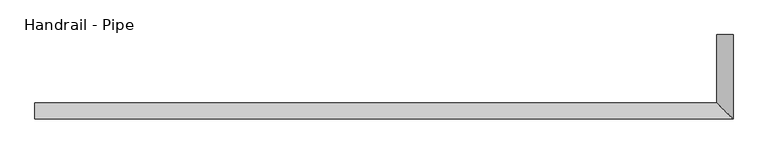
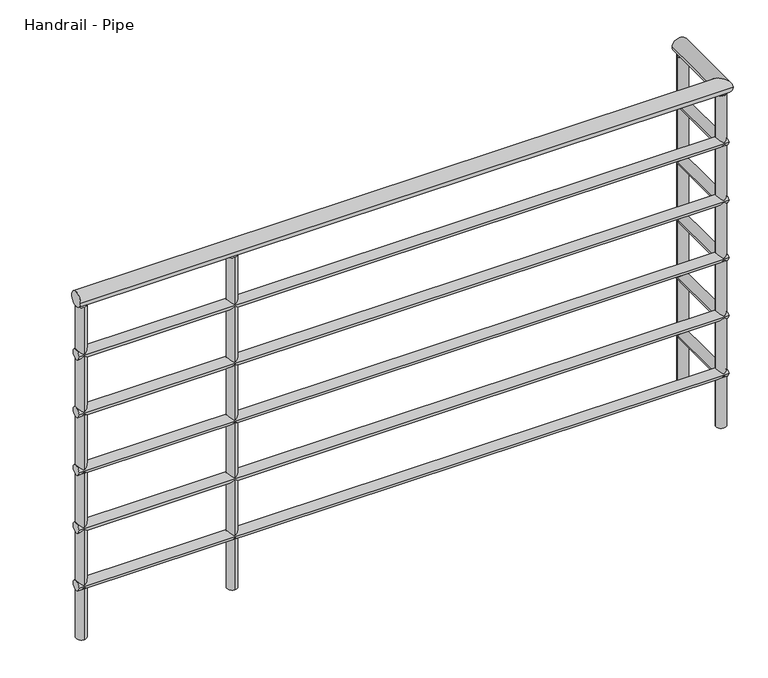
"""IFC4 building model written with IfcOpenShell, lengths in millimetres: railing geometry, Handrail - Pipe."""

from ifc_helpers import new_model, si_unit, point, frame, frame_2d, origin, origin_with_axes, place, context, project, spatial, circle_curve, ellipse_curve, trimmed, segment, composite_curve, outline, extrude, source, transform, mapped, element, save
from ifc_brep_helpers import plane_surface, cylinder_surface, advanced_brep


def handrail_pipe_f52d8f37(model_context):
    return source(origin(), model_context, "Body", "SolidModel", [
        advanced_brep(
        [(11849.3921922, 17749.6862109, 895.35), (11811.2921922, 17749.6862109, 895.35), (11849.3921922, 17552.8362109, 895.35), (11811.2921922, 17590.9362109, 895.35), (10222.462245, 17552.8362109, 895.35), (10222.462245, 17590.9362109, 895.35)],
        [
            (0, 1, circle_curve(frame((11830.3421922, 17749.6862109, 895.35), z_axis=(0.0, 1.0, 0.0), x_axis=(-1.0, 0.0, 0.0)), 19.05)),
            (1, 0, circle_curve(frame((11830.3421922, 17749.6862109, 895.35), z_axis=(0.0, 1.0, 0.0), x_axis=(-1.0, 0.0, 0.0)), 19.05)),
            (0, 2),
            (2, 3, ellipse_curve(frame((11830.3421922, 17571.8862109, 895.35), z_axis=(0.7071067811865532, 0.7071067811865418, 0.0), x_axis=(-0.7071067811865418, 0.7071067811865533, 0.0)), 26.9407684, 19.05)),
            (3, 1),
            (3, 2, ellipse_curve(frame((11830.3421922, 17571.8862109, 895.35), z_axis=(0.7071067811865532, 0.7071067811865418, 0.0), x_axis=(-0.7071067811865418, 0.7071067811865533, 0.0)), 26.9407684, 19.05)),
            (4, 5, circle_curve(frame((10222.462245, 17571.8862109, 895.35), z_axis=(-1.0, 0.0, 0.0), x_axis=(0.0, 1.0, 0.0)), 19.05)),
            (5, 4, circle_curve(frame((10222.462245, 17571.8862109, 895.35), z_axis=(-1.0, 0.0, 0.0), x_axis=(0.0, 1.0, 0.0)), 19.05)),
            (2, 4),
            (5, 3),
        ],
        [
            plane_surface(frame((11830.3421922, 17749.6862109, 914.4), z_axis=(0.0, 1.0, 0.0), x_axis=(0.0, 0.0, -1.0))),
            cylinder_surface(frame((11830.3421922, 17749.6862109, 895.35), z_axis=(0.0, 1.0, 0.0), x_axis=(-1.0, 0.0, 0.0)), 19.05),
            plane_surface(frame((10222.462245, 17571.8862109, 914.4), z_axis=(-1.0, 0.0, 0.0), x_axis=(0.0, -1.0, 0.0))),
            cylinder_surface(frame((11830.3421922, 17571.8862109, 895.35), z_axis=(1.0, 0.0, 0.0), x_axis=(0.0, 1.0, 0.0)), 19.05),
        ],
        [
            (0, [[1, 2]]),
            (1, [[-1, 3, 4, 5]]),
            (1, [[-2, -5, 6, -3]]),
            (2, [[7, 8]]),
            (3, [[-4, 9, -8, 10]]),
            (3, [[-6, -10, -7, -9]]),
        ],
    ),
        advanced_brep(
        [(11843.0421922, 17749.6862109, 749.3), (11817.6421922, 17749.6862109, 749.3), (11843.0421922, 17559.1862109, 749.3), (11817.6421922, 17584.5862109, 749.3), (10222.462245, 17559.1862109, 749.3), (10222.462245, 17584.5862109, 749.3)],
        [
            (0, 1, circle_curve(frame((11830.3421922, 17749.6862109, 749.3), z_axis=(0.0, 1.0, 0.0), x_axis=(-1.0, 0.0, 0.0)), 12.7)),
            (1, 0, circle_curve(frame((11830.3421922, 17749.6862109, 749.3), z_axis=(0.0, 1.0, 0.0), x_axis=(-1.0, 0.0, 0.0)), 12.7)),
            (0, 2),
            (2, 3, ellipse_curve(frame((11830.3421922, 17571.8862109, 749.3), z_axis=(0.7071067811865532, 0.7071067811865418, 0.0), x_axis=(-0.7071067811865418, 0.7071067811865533, 0.0)), 17.9605122, 12.7)),
            (3, 1),
            (3, 2, ellipse_curve(frame((11830.3421922, 17571.8862109, 749.3), z_axis=(0.7071067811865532, 0.7071067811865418, 0.0), x_axis=(-0.7071067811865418, 0.7071067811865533, 0.0)), 17.9605122, 12.7)),
            (4, 5, circle_curve(frame((10222.462245, 17571.8862109, 749.3), z_axis=(-1.0, 0.0, 0.0), x_axis=(0.0, 1.0, 0.0)), 12.7)),
            (5, 4, circle_curve(frame((10222.462245, 17571.8862109, 749.3), z_axis=(-1.0, 0.0, 0.0), x_axis=(0.0, 1.0, 0.0)), 12.7)),
            (2, 4),
            (5, 3),
        ],
        [
            plane_surface(frame((11830.3421922, 17749.6862109, 762.0), z_axis=(0.0, 1.0, 0.0), x_axis=(0.0, 0.0, -1.0))),
            cylinder_surface(frame((11830.3421922, 17749.6862109, 749.3), z_axis=(0.0, 1.0, 0.0), x_axis=(-1.0, 0.0, 0.0)), 12.7),
            plane_surface(frame((10222.462245, 17571.8862109, 762.0), z_axis=(-1.0, 0.0, 0.0), x_axis=(0.0, -1.0, 0.0))),
            cylinder_surface(frame((11830.3421922, 17571.8862109, 749.3), z_axis=(1.0, 0.0, 0.0), x_axis=(0.0, 1.0, 0.0)), 12.7),
        ],
        [
            (0, [[1, 2]]),
            (1, [[-1, 3, 4, 5]]),
            (1, [[-2, -5, 6, -3]]),
            (2, [[7, 8]]),
            (3, [[-4, 9, -8, 10]]),
            (3, [[-6, -10, -7, -9]]),
        ],
    ),
        advanced_brep(
        [(11843.0421922, 17749.6862109, 596.9), (11817.6421922, 17749.6862109, 596.9), (11843.0421922, 17559.1862109, 596.9), (11817.6421922, 17584.5862109, 596.9), (10222.462245, 17559.1862109, 596.9), (10222.462245, 17584.5862109, 596.9)],
        [
            (0, 1, circle_curve(frame((11830.3421922, 17749.6862109, 596.9), z_axis=(0.0, 1.0, 0.0), x_axis=(-1.0, 0.0, 0.0)), 12.7)),
            (1, 0, circle_curve(frame((11830.3421922, 17749.6862109, 596.9), z_axis=(0.0, 1.0, 0.0), x_axis=(-1.0, 0.0, 0.0)), 12.7)),
            (0, 2),
            (2, 3, ellipse_curve(frame((11830.3421922, 17571.8862109, 596.9), z_axis=(0.7071067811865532, 0.7071067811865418, 0.0), x_axis=(-0.7071067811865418, 0.7071067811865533, 0.0)), 17.9605122, 12.7)),
            (3, 1),
            (3, 2, ellipse_curve(frame((11830.3421922, 17571.8862109, 596.9), z_axis=(0.7071067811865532, 0.7071067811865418, 0.0), x_axis=(-0.7071067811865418, 0.7071067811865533, 0.0)), 17.9605122, 12.7)),
            (4, 5, circle_curve(frame((10222.462245, 17571.8862109, 596.9), z_axis=(-1.0, 0.0, 0.0), x_axis=(0.0, 1.0, 0.0)), 12.7)),
            (5, 4, circle_curve(frame((10222.462245, 17571.8862109, 596.9), z_axis=(-1.0, 0.0, 0.0), x_axis=(0.0, 1.0, 0.0)), 12.7)),
            (2, 4),
            (5, 3),
        ],
        [
            plane_surface(frame((11830.3421922, 17749.6862109, 609.6), z_axis=(0.0, 1.0, 0.0), x_axis=(0.0, 0.0, -1.0))),
            cylinder_surface(frame((11830.3421922, 17749.6862109, 596.9), z_axis=(0.0, 1.0, 0.0), x_axis=(-1.0, 0.0, 0.0)), 12.7),
            plane_surface(frame((10222.462245, 17571.8862109, 609.6), z_axis=(-1.0, 0.0, 0.0), x_axis=(0.0, -1.0, 0.0))),
            cylinder_surface(frame((11830.3421922, 17571.8862109, 596.9), z_axis=(1.0, 0.0, 0.0), x_axis=(0.0, 1.0, 0.0)), 12.7),
        ],
        [
            (0, [[1, 2]]),
            (1, [[-1, 3, 4, 5]]),
            (1, [[-2, -5, 6, -3]]),
            (2, [[7, 8]]),
            (3, [[-4, 9, -8, 10]]),
            (3, [[-6, -10, -7, -9]]),
        ],
    ),
        advanced_brep(
        [(11843.0421922, 17749.6862109, 444.5), (11817.6421922, 17749.6862109, 444.5), (11843.0421922, 17559.1862109, 444.5), (11817.6421922, 17584.5862109, 444.5), (10222.462245, 17559.1862109, 444.5), (10222.462245, 17584.5862109, 444.5)],
        [
            (0, 1, circle_curve(frame((11830.3421922, 17749.6862109, 444.5), z_axis=(0.0, 1.0, 0.0), x_axis=(-1.0, 0.0, 0.0)), 12.7)),
            (1, 0, circle_curve(frame((11830.3421922, 17749.6862109, 444.5), z_axis=(0.0, 1.0, 0.0), x_axis=(-1.0, 0.0, 0.0)), 12.7)),
            (0, 2),
            (2, 3, ellipse_curve(frame((11830.3421922, 17571.8862109, 444.5), z_axis=(0.7071067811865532, 0.7071067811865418, 0.0), x_axis=(-0.7071067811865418, 0.7071067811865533, 0.0)), 17.9605122, 12.7)),
            (3, 1),
            (3, 2, ellipse_curve(frame((11830.3421922, 17571.8862109, 444.5), z_axis=(0.7071067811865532, 0.7071067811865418, 0.0), x_axis=(-0.7071067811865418, 0.7071067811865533, 0.0)), 17.9605122, 12.7)),
            (4, 5, circle_curve(frame((10222.462245, 17571.8862109, 444.5), z_axis=(-1.0, 0.0, 0.0), x_axis=(0.0, 1.0, 0.0)), 12.7)),
            (5, 4, circle_curve(frame((10222.462245, 17571.8862109, 444.5), z_axis=(-1.0, 0.0, 0.0), x_axis=(0.0, 1.0, 0.0)), 12.7)),
            (2, 4),
            (5, 3),
        ],
        [
            plane_surface(frame((11830.3421922, 17749.6862109, 457.2), z_axis=(0.0, 1.0, 0.0), x_axis=(0.0, 0.0, -1.0))),
            cylinder_surface(frame((11830.3421922, 17749.6862109, 444.5), z_axis=(0.0, 1.0, 0.0), x_axis=(-1.0, 0.0, 0.0)), 12.7),
            plane_surface(frame((10222.462245, 17571.8862109, 457.2), z_axis=(-1.0, 0.0, 0.0), x_axis=(0.0, -1.0, 0.0))),
            cylinder_surface(frame((11830.3421922, 17571.8862109, 444.5), z_axis=(1.0, 0.0, 0.0), x_axis=(0.0, 1.0, 0.0)), 12.7),
        ],
        [
            (0, [[1, 2]]),
            (1, [[-1, 3, 4, 5]]),
            (1, [[-2, -5, 6, -3]]),
            (2, [[7, 8]]),
            (3, [[-4, 9, -8, 10]]),
            (3, [[-6, -10, -7, -9]]),
        ],
    ),
        advanced_brep(
        [(11843.0421922, 17749.6862109, 292.1), (11817.6421922, 17749.6862109, 292.1), (11843.0421922, 17559.1862109, 292.1), (11817.6421922, 17584.5862109, 292.1), (10222.462245, 17559.1862109, 292.1), (10222.462245, 17584.5862109, 292.1)],
        [
            (0, 1, circle_curve(frame((11830.3421922, 17749.6862109, 292.1), z_axis=(0.0, 1.0, 0.0), x_axis=(-1.0, 0.0, 0.0)), 12.7)),
            (1, 0, circle_curve(frame((11830.3421922, 17749.6862109, 292.1), z_axis=(0.0, 1.0, 0.0), x_axis=(-1.0, 0.0, 0.0)), 12.7)),
            (0, 2),
            (2, 3, ellipse_curve(frame((11830.3421922, 17571.8862109, 292.1), z_axis=(0.7071067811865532, 0.7071067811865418, 0.0), x_axis=(-0.7071067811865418, 0.7071067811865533, 0.0)), 17.9605122, 12.7)),
            (3, 1),
            (3, 2, ellipse_curve(frame((11830.3421922, 17571.8862109, 292.1), z_axis=(0.7071067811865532, 0.7071067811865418, 0.0), x_axis=(-0.7071067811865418, 0.7071067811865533, 0.0)), 17.9605122, 12.7)),
            (4, 5, circle_curve(frame((10222.462245, 17571.8862109, 292.1), z_axis=(-1.0, 0.0, 0.0), x_axis=(0.0, 1.0, 0.0)), 12.7)),
            (5, 4, circle_curve(frame((10222.462245, 17571.8862109, 292.1), z_axis=(-1.0, 0.0, 0.0), x_axis=(0.0, 1.0, 0.0)), 12.7)),
            (2, 4),
            (5, 3),
        ],
        [
            plane_surface(frame((11830.3421922, 17749.6862109, 304.8), z_axis=(0.0, 1.0, 0.0), x_axis=(0.0, 0.0, -1.0))),
            cylinder_surface(frame((11830.3421922, 17749.6862109, 292.1), z_axis=(0.0, 1.0, 0.0), x_axis=(-1.0, 0.0, 0.0)), 12.7),
            plane_surface(frame((10222.462245, 17571.8862109, 304.8), z_axis=(-1.0, 0.0, 0.0), x_axis=(0.0, -1.0, 0.0))),
            cylinder_surface(frame((11830.3421922, 17571.8862109, 292.1), z_axis=(1.0, 0.0, 0.0), x_axis=(0.0, 1.0, 0.0)), 12.7),
        ],
        [
            (0, [[1, 2]]),
            (1, [[-1, 3, 4, 5]]),
            (1, [[-2, -5, 6, -3]]),
            (2, [[7, 8]]),
            (3, [[-4, 9, -8, 10]]),
            (3, [[-6, -10, -7, -9]]),
        ],
    ),
        advanced_brep(
        [(11843.0421922, 17749.6862109, 139.7), (11817.6421922, 17749.6862109, 139.7), (11843.0421922, 17559.1862109, 139.7), (11817.6421922, 17584.5862109, 139.7), (10222.462245, 17559.1862109, 139.7), (10222.462245, 17584.5862109, 139.7)],
        [
            (0, 1, circle_curve(frame((11830.3421922, 17749.6862109, 139.7), z_axis=(0.0, 1.0, 0.0), x_axis=(-1.0, 0.0, 0.0)), 12.7)),
            (1, 0, circle_curve(frame((11830.3421922, 17749.6862109, 139.7), z_axis=(0.0, 1.0, 0.0), x_axis=(-1.0, 0.0, 0.0)), 12.7)),
            (0, 2),
            (2, 3, ellipse_curve(frame((11830.3421922, 17571.8862109, 139.7), z_axis=(0.7071067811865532, 0.7071067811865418, 0.0), x_axis=(-0.7071067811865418, 0.7071067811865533, 0.0)), 17.9605122, 12.7)),
            (3, 1),
            (3, 2, ellipse_curve(frame((11830.3421922, 17571.8862109, 139.7), z_axis=(0.7071067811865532, 0.7071067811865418, 0.0), x_axis=(-0.7071067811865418, 0.7071067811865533, 0.0)), 17.9605122, 12.7)),
            (4, 5, circle_curve(frame((10222.462245, 17571.8862109, 139.7), z_axis=(-1.0, 0.0, 0.0), x_axis=(0.0, 1.0, 0.0)), 12.7)),
            (5, 4, circle_curve(frame((10222.462245, 17571.8862109, 139.7), z_axis=(-1.0, 0.0, 0.0), x_axis=(0.0, 1.0, 0.0)), 12.7)),
            (2, 4),
            (5, 3),
        ],
        [
            plane_surface(frame((11830.3421922, 17749.6862109, 152.4), z_axis=(0.0, 1.0, 0.0), x_axis=(0.0, 0.0, -1.0))),
            cylinder_surface(frame((11830.3421922, 17749.6862109, 139.7), z_axis=(0.0, 1.0, 0.0), x_axis=(-1.0, 0.0, 0.0)), 12.7),
            plane_surface(frame((10222.462245, 17571.8862109, 152.4), z_axis=(-1.0, 0.0, 0.0), x_axis=(0.0, -1.0, 0.0))),
            cylinder_surface(frame((11830.3421922, 17571.8862109, 139.7), z_axis=(1.0, 0.0, 0.0), x_axis=(0.0, 1.0, 0.0)), 12.7),
        ],
        [
            (0, [[1, 2]]),
            (1, [[-1, 3, 4, 5]]),
            (1, [[-2, -5, 6, -3]]),
            (2, [[7, 8]]),
            (3, [[-4, 9, -8, 10]]),
            (3, [[-6, -10, -7, -9]]),
        ],
    ),
        extrude(outline(composite_curve([segment(trimmed(circle_curve(frame_2d((10611.1421922, 17571.8862109)), 12.7), [point((10611.1421922, 17559.1862109))], [point((10611.1421922, 17584.5862109))], False, "CARTESIAN"), True, "CONTINUOUS"), segment(trimmed(circle_curve(frame_2d((10611.1421922, 17571.8862109)), 12.7), [point((10611.1421922, 17584.5862109))], [point((10611.1421922, 17559.1862109))], False, "CARTESIAN"), True, "CONTINUOUS")], self_intersect=False)), origin_with_axes(), (0.0, 0.0, 1.0), 876.3),
        extrude(outline(composite_curve([segment(trimmed(circle_curve(frame_2d((11830.3421922, 17571.8862109)), 12.7), [point((11843.0421922, 17571.8862109))], [point((11817.6421922, 17571.8862109))], False, "CARTESIAN"), True, "CONTINUOUS"), segment(trimmed(circle_curve(frame_2d((11830.3421922, 17571.8862109)), 12.7), [point((11817.6421922, 17571.8862109))], [point((11843.0421922, 17571.8862109))], False, "CARTESIAN"), True, "CONTINUOUS")], self_intersect=False)), origin_with_axes(), (0.0, 0.0, 1.0), 876.3),
        extrude(outline(composite_curve([segment(trimmed(circle_curve(frame_2d((10235.162245, 17571.8862109)), 12.7), [point((10235.162245, 17559.1862109))], [point((10235.162245, 17584.5862109))], False, "CARTESIAN"), True, "CONTINUOUS"), segment(trimmed(circle_curve(frame_2d((10235.162245, 17571.8862109)), 12.7), [point((10235.162245, 17584.5862109))], [point((10235.162245, 17559.1862109))], False, "CARTESIAN"), True, "CONTINUOUS")], self_intersect=False)), origin_with_axes(), (0.0, 0.0, 1.0), 876.3),
        extrude(outline(composite_curve([segment(trimmed(circle_curve(frame_2d((11830.3421922, 17736.9862109)), 12.7), [point((11843.0421922, 17736.9862109))], [point((11817.6421922, 17736.9862109))], False, "CARTESIAN"), True, "CONTINUOUS"), segment(trimmed(circle_curve(frame_2d((11830.3421922, 17736.9862109)), 12.7), [point((11817.6421922, 17736.9862109))], [point((11843.0421922, 17736.9862109))], False, "CARTESIAN"), True, "CONTINUOUS")], self_intersect=False)), origin_with_axes(), (0.0, 0.0, 1.0), 876.3),
    ])


if __name__ == "__main__":
    model = new_model("IFC4")
    model_context = context("Model", 3, world=origin())
    ifc_project = project(units=[si_unit("LENGTHUNIT", "METRE", prefix="MILLI")], contexts=[model_context])
    site = spatial("IfcSite", under=ifc_project)
    building = spatial("IfcBuilding", under=site)
    placement = place(None, origin())
    handrail_pipe_shape = handrail_pipe_f52d8f37(model_context)
    element("IfcRailing", 1, ObjectType="Handrail - Pipe", at=placement, inside=building, context=model_context, shape_type="MappedRepresentation", body=[
        mapped(handrail_pipe_shape, transform((0.0, 0.0, 0.0), x_axis=(1.0, 0.0, 0.0), y_axis=(0.0, 1.0, 0.0), z_axis=(0.0, 0.0, 1.0))),
    ])
    save(model, "model.ifc")
